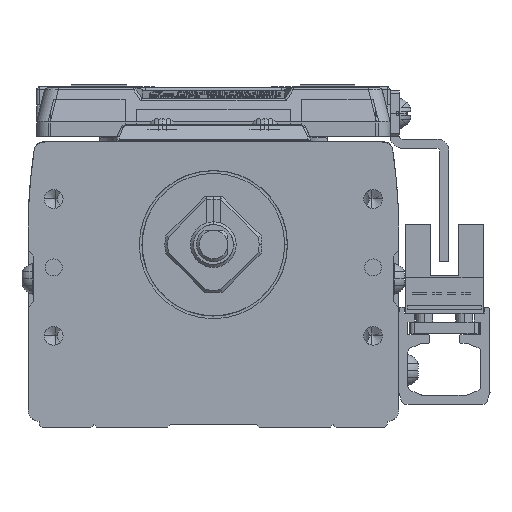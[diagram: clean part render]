
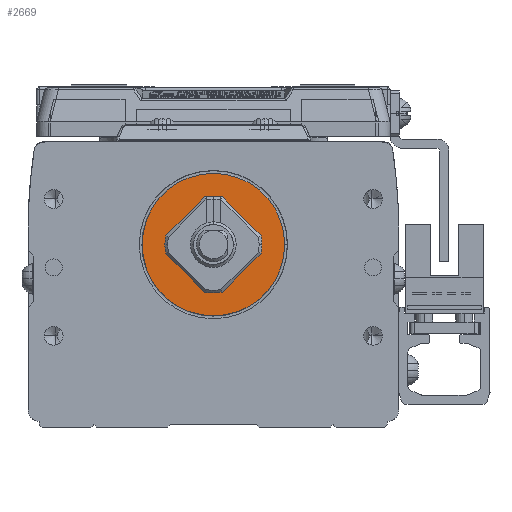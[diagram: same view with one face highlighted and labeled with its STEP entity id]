
A CAD part, left-side view. The second image highlights one B-rep face of the part: STEP entity #2669.
In plain terms, the highlighted planar face has unit normal (-1, 0, 0).
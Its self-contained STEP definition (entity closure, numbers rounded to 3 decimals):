
#2669=ADVANCED_FACE('',(#5668,#5669),#5670,.T.);
#5668=FACE_OUTER_BOUND('',#11413,.T.);
#5669=FACE_BOUND('',#11414,.T.);
#5670=PLANE('',#11415);
#11413=EDGE_LOOP('',(#20793,#20794));
#11414=EDGE_LOOP('',(#20795,#20796));
#11415=AXIS2_PLACEMENT_3D('',#20797,#20798,#20799);
#20793=ORIENTED_EDGE('',*,*,#35202,.T.);
#20794=ORIENTED_EDGE('',*,*,#35222,.T.);
#20795=ORIENTED_EDGE('',*,*,#35121,.F.);
#20796=ORIENTED_EDGE('',*,*,#35223,.F.);
#20797=CARTESIAN_POINT('',(-20.0,-0.036,-6.5));
#20798=DIRECTION('',(-1.0,0.,0.));
#20799=DIRECTION('',(0.,-1.0,0.));
#35121=EDGE_CURVE('',#41917,#41913,#41919,.T.);
#35202=EDGE_CURVE('',#42072,#42069,#42073,.T.);
#35222=EDGE_CURVE('',#42069,#42072,#42104,.T.);
#35223=EDGE_CURVE('',#41913,#41917,#42105,.T.);
#41913=VERTEX_POINT('',#52661);
#41917=VERTEX_POINT('',#52666);
#41919=CIRCLE('',#52669,4.0);
#42069=VERTEX_POINT('',#53161);
#42072=VERTEX_POINT('',#53164);
#42073=CIRCLE('',#53165,12.5);
#42104=CIRCLE('',#53204,12.5);
#42105=CIRCLE('',#53205,4.0);
#52661=CARTESIAN_POINT('',(-20.0,4.,0.));
#52666=CARTESIAN_POINT('',(-20.0,-4.,0.));
#52669=AXIS2_PLACEMENT_3D('',#65788,#65789,#65790);
#53161=CARTESIAN_POINT('',(-20.0,-12.5,0.));
#53164=CARTESIAN_POINT('',(-20.0,12.5,0.));
#53165=AXIS2_PLACEMENT_3D('',#65913,#65914,#65915);
#53204=AXIS2_PLACEMENT_3D('',#65957,#65958,#65959);
#53205=AXIS2_PLACEMENT_3D('',#65960,#65961,#65962);
#65788=CARTESIAN_POINT('',(-20.0,0.,0.));
#65789=DIRECTION('',(-1.0,0.,0.));
#65790=DIRECTION('',(0.,1.0,0.));
#65913=CARTESIAN_POINT('',(-20.0,0.,0.));
#65914=DIRECTION('',(-1.0,0.,0.));
#65915=DIRECTION('',(0.,-1.0,0.));
#65957=CARTESIAN_POINT('',(-20.0,0.,0.));
#65958=DIRECTION('',(-1.0,0.,0.));
#65959=DIRECTION('',(0.,-1.0,0.));
#65960=CARTESIAN_POINT('',(-20.0,0.,0.));
#65961=DIRECTION('',(-1.0,0.,0.));
#65962=DIRECTION('',(0.,1.0,0.));
